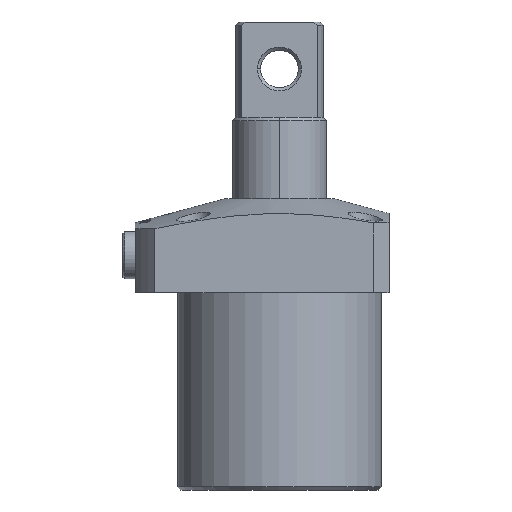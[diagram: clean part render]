
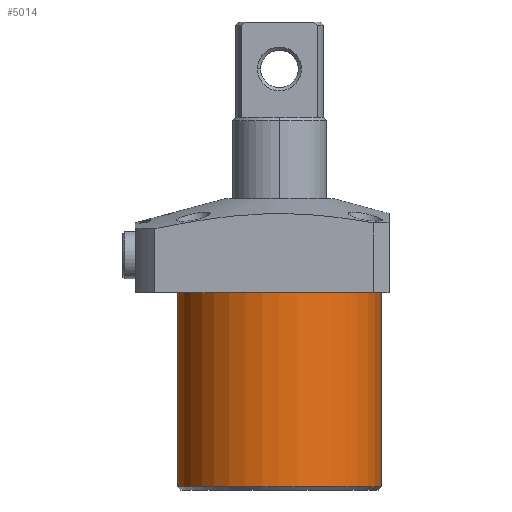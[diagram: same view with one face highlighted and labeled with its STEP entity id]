
A CAD part, front view. The second image highlights one B-rep face of the part: STEP entity #5014.
In plain terms, the highlighted cylindrical face has radius 32.5 mm (diameter 65 mm), a partial arc.
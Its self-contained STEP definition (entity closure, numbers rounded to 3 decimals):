
#785 = EDGE_CURVE ( 'NONE', #15191, #13907, #15136, .T. ) ;
#1150 = CARTESIAN_POINT ( 'NONE',  ( 32.5, 0., -63. ) ) ;
#1617 = EDGE_CURVE ( 'NONE', #12001, #13907, #11584, .T. ) ;
#1635 = LINE ( 'NONE', #1150, #5190 ) ;
#1845 = AXIS2_PLACEMENT_3D ( 'NONE', #4615, #12926, #5807 ) ;
#2051 = CIRCLE ( 'NONE', #12594, 32.5 ) ;
#2113 = VECTOR ( 'NONE', #12389, 1000. ) ;
#2146 = DIRECTION ( 'NONE',  ( 0., 0., 1. ) ) ;
#2682 = CARTESIAN_POINT ( 'NONE',  ( 0., 0., -63. ) ) ;
#3046 = ORIENTED_EDGE ( 'NONE', *, *, #5992, .T. ) ;
#3422 = VERTEX_POINT ( 'NONE', #4516 ) ;
#3732 = CYLINDRICAL_SURFACE ( 'NONE', #5325, 32.5 ) ;
#3863 = EDGE_CURVE ( 'NONE', #15191, #3422, #2051, .T. ) ;
#3902 = DIRECTION ( 'NONE',  ( 1., 0., 0. ) ) ;
#4516 = CARTESIAN_POINT ( 'NONE',  ( 32.5, 0., -62. ) ) ;
#4615 = CARTESIAN_POINT ( 'NONE',  ( 0., 0., 0. ) ) ;
#4820 = ORIENTED_EDGE ( 'NONE', *, *, #785, .F. ) ;
#5014 = ADVANCED_FACE ( 'NONE', ( #10024 ), #3732, .T. ) ;
#5190 = VECTOR ( 'NONE', #9487, 1000. ) ;
#5325 = AXIS2_PLACEMENT_3D ( 'NONE', #2682, #10992, #3902 ) ;
#5794 = EDGE_LOOP ( 'NONE', ( #4820, #13675, #3046, #6351 ) ) ;
#5807 = DIRECTION ( 'NONE',  ( -1., 0., 0. ) ) ;
#5992 = EDGE_CURVE ( 'NONE', #3422, #12001, #1635, .T. ) ;
#6351 = ORIENTED_EDGE ( 'NONE', *, *, #1617, .T. ) ;
#6927 = CARTESIAN_POINT ( 'NONE',  ( 32.5, 0., 0. ) ) ;
#8065 = CARTESIAN_POINT ( 'NONE',  ( -32.5, 0., -62. ) ) ;
#9273 = CARTESIAN_POINT ( 'NONE',  ( 0., 0., -62. ) ) ;
#9487 = DIRECTION ( 'NONE',  ( 0., 0., 1. ) ) ;
#10024 = FACE_OUTER_BOUND ( 'NONE', #5794, .T. ) ;
#10455 = DIRECTION ( 'NONE',  ( -1., 0., 0. ) ) ;
#10992 = DIRECTION ( 'NONE',  ( 0., 0., 1. ) ) ;
#11584 = CIRCLE ( 'NONE', #1845, 32.5 ) ;
#12001 = VERTEX_POINT ( 'NONE', #6927 ) ;
#12241 = CARTESIAN_POINT ( 'NONE',  ( -32.5, 0., -63. ) ) ;
#12389 = DIRECTION ( 'NONE',  ( 0., 0., 1. ) ) ;
#12594 = AXIS2_PLACEMENT_3D ( 'NONE', #9273, #2146, #10455 ) ;
#12926 = DIRECTION ( 'NONE',  ( 0., 0., -1. ) ) ;
#13675 = ORIENTED_EDGE ( 'NONE', *, *, #3863, .T. ) ;
#13683 = CARTESIAN_POINT ( 'NONE',  ( -32.5, 0., 0. ) ) ;
#13907 = VERTEX_POINT ( 'NONE', #13683 ) ;
#15136 = LINE ( 'NONE', #12241, #2113 ) ;
#15191 = VERTEX_POINT ( 'NONE', #8065 ) ;
